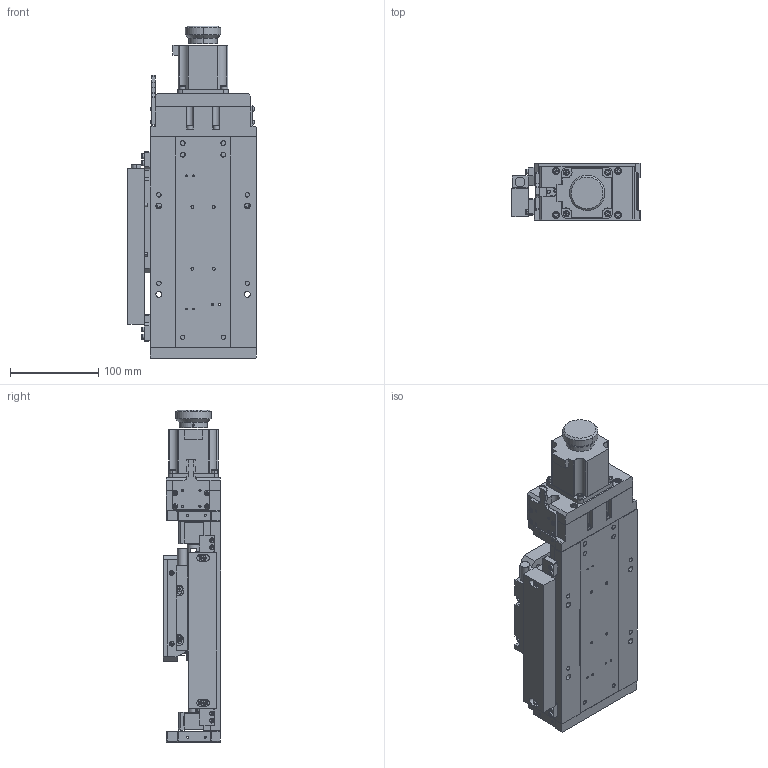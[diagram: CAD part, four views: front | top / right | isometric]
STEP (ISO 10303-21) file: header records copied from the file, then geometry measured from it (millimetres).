
FILE_DESCRIPTION (( 'STEP AP203' ), '1' );
FILE_NAME ('KA050.step', '2019-05-06T07:49:59', ( '' ), ( '' ), 'SwSTEP 2.0', 'SolidWorks 2017', '' );
FILE_SCHEMA (( 'CONFIG_CONTROL_DESIGN' ));
Length unit declared in the file: millimetre
Products named in the file (1): KA050
Bounding box: 145 x 65 x 375.5 mm (x, y, z)
Surface area: 296275.2 mm2 (no closed solid volume)
Topology: 0 solids, 143 shells, 1455 faces, 5561 edges, 4084 vertices
Faces by surface type: plane 842, cylinder 415, torus 100, cone 60, sphere 38
Entity records: 58957 total; most frequent: CARTESIAN_POINT 11942, DIRECTION 10105, ORIENTED_EDGE 8283, EDGE_CURVE 5463, VERTEX_POINT 4052, LINE 3467, VECTOR 3467, AXIS2_PLACEMENT_3D 3319
